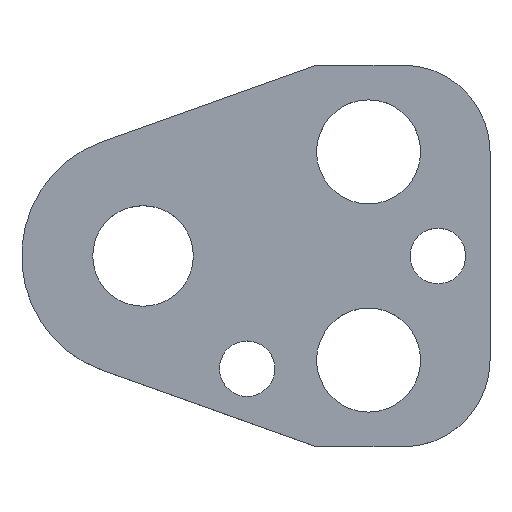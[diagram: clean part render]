
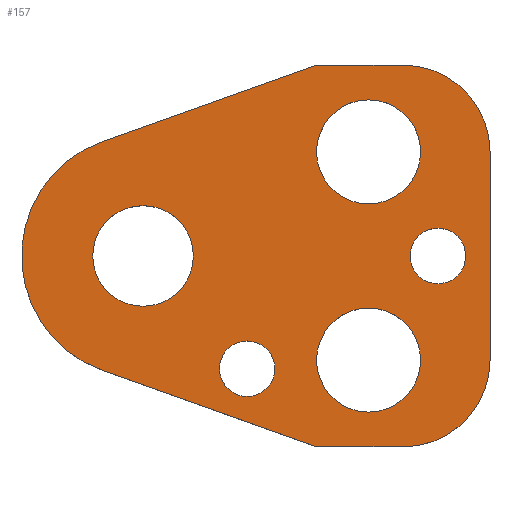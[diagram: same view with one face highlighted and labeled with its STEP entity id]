
A CAD part, top view. The second image highlights one B-rep face of the part: STEP entity #157.
In plain terms, the highlighted planar face has unit normal (0, 0, 1).
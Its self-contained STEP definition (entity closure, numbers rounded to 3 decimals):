
#103=FACE_BOUND('',#207,.T.);
#104=FACE_BOUND('',#208,.T.);
#105=FACE_BOUND('',#209,.T.);
#106=FACE_BOUND('',#210,.T.);
#107=FACE_BOUND('',#211,.T.);
#108=FACE_BOUND('',#212,.T.);
#122=CIRCLE('',#480,10.);
#124=CIRCLE('',#484,10.);
#127=CIRCLE('',#490,14.);
#138=CIRCLE('',#503,3.2);
#139=CIRCLE('',#504,3.2);
#140=CIRCLE('',#505,6.);
#141=CIRCLE('',#506,6.);
#142=CIRCLE('',#507,6.);
#143=CIRCLE('',#508,6.);
#144=CIRCLE('',#509,3.2);
#145=CIRCLE('',#510,3.2);
#146=CIRCLE('',#511,5.8);
#147=CIRCLE('',#512,5.8);
#157=ADVANCED_FACE('',(#103,#104,#105,#106,#107,#108),#174,.T.);
#174=PLANE('',#513);
#207=EDGE_LOOP('',(#273,#274,#275,#276,#277,#278,#279,#280));
#208=EDGE_LOOP('',(#281,#282));
#209=EDGE_LOOP('',(#283,#284));
#210=EDGE_LOOP('',(#285,#286));
#211=EDGE_LOOP('',(#287,#288));
#212=EDGE_LOOP('',(#289,#290));
#273=ORIENTED_EDGE('',*,*,#368,.T.);
#274=ORIENTED_EDGE('',*,*,#372,.T.);
#275=ORIENTED_EDGE('',*,*,#375,.T.);
#276=ORIENTED_EDGE('',*,*,#378,.T.);
#277=ORIENTED_EDGE('',*,*,#381,.T.);
#278=ORIENTED_EDGE('',*,*,#384,.T.);
#279=ORIENTED_EDGE('',*,*,#387,.T.);
#280=ORIENTED_EDGE('',*,*,#390,.T.);
#281=ORIENTED_EDGE('',*,*,#401,.T.);
#282=ORIENTED_EDGE('',*,*,#402,.T.);
#283=ORIENTED_EDGE('',*,*,#403,.T.);
#284=ORIENTED_EDGE('',*,*,#404,.T.);
#285=ORIENTED_EDGE('',*,*,#405,.T.);
#286=ORIENTED_EDGE('',*,*,#406,.T.);
#287=ORIENTED_EDGE('',*,*,#407,.T.);
#288=ORIENTED_EDGE('',*,*,#408,.T.);
#289=ORIENTED_EDGE('',*,*,#409,.T.);
#290=ORIENTED_EDGE('',*,*,#410,.T.);
#332=VERTEX_POINT('',#649);
#333=VERTEX_POINT('',#651);
#336=VERTEX_POINT('',#658);
#338=VERTEX_POINT('',#664);
#340=VERTEX_POINT('',#670);
#342=VERTEX_POINT('',#676);
#344=VERTEX_POINT('',#682);
#346=VERTEX_POINT('',#688);
#357=VERTEX_POINT('',#717);
#358=VERTEX_POINT('',#718);
#359=VERTEX_POINT('',#721);
#360=VERTEX_POINT('',#722);
#361=VERTEX_POINT('',#725);
#362=VERTEX_POINT('',#726);
#363=VERTEX_POINT('',#729);
#364=VERTEX_POINT('',#730);
#365=VERTEX_POINT('',#733);
#366=VERTEX_POINT('',#734);
#368=EDGE_CURVE('',#333,#332,#422,.T.);
#372=EDGE_CURVE('',#332,#336,#426,.T.);
#375=EDGE_CURVE('',#336,#338,#122,.T.);
#378=EDGE_CURVE('',#338,#340,#430,.T.);
#381=EDGE_CURVE('',#340,#342,#124,.T.);
#384=EDGE_CURVE('',#342,#344,#434,.T.);
#387=EDGE_CURVE('',#344,#346,#437,.T.);
#390=EDGE_CURVE('',#346,#333,#127,.T.);
#401=EDGE_CURVE('',#357,#358,#138,.T.);
#402=EDGE_CURVE('',#358,#357,#139,.T.);
#403=EDGE_CURVE('',#359,#360,#140,.T.);
#404=EDGE_CURVE('',#360,#359,#141,.T.);
#405=EDGE_CURVE('',#361,#362,#142,.T.);
#406=EDGE_CURVE('',#362,#361,#143,.T.);
#407=EDGE_CURVE('',#363,#364,#144,.T.);
#408=EDGE_CURVE('',#364,#363,#145,.T.);
#409=EDGE_CURVE('',#365,#366,#146,.T.);
#410=EDGE_CURVE('',#366,#365,#147,.T.);
#422=LINE('',#650,#450);
#426=LINE('',#659,#454);
#430=LINE('',#671,#458);
#434=LINE('',#683,#462);
#437=LINE('',#689,#465);
#450=VECTOR('',#527,1.);
#454=VECTOR('',#533,1.);
#458=VECTOR('',#545,1.);
#462=VECTOR('',#557,1.);
#465=VECTOR('',#562,1.);
#480=AXIS2_PLACEMENT_3D('',#665,#538,#539);
#484=AXIS2_PLACEMENT_3D('',#677,#550,#551);
#490=AXIS2_PLACEMENT_3D('',#693,#568,#569);
#503=AXIS2_PLACEMENT_3D('',#716,#594,#595);
#504=AXIS2_PLACEMENT_3D('',#719,#596,#597);
#505=AXIS2_PLACEMENT_3D('',#720,#598,#599);
#506=AXIS2_PLACEMENT_3D('',#723,#600,#601);
#507=AXIS2_PLACEMENT_3D('',#724,#602,#603);
#508=AXIS2_PLACEMENT_3D('',#727,#604,#605);
#509=AXIS2_PLACEMENT_3D('',#728,#606,#607);
#510=AXIS2_PLACEMENT_3D('',#731,#608,#609);
#511=AXIS2_PLACEMENT_3D('',#732,#610,#611);
#512=AXIS2_PLACEMENT_3D('',#735,#612,#613);
#513=AXIS2_PLACEMENT_3D('',#736,#614,#615);
#527=DIRECTION('',(0.942,-0.336,0.));
#533=DIRECTION('',(1.,0.,0.));
#538=DIRECTION('',(0.,0.,1.));
#539=DIRECTION('',(-0.707,0.707,0.));
#545=DIRECTION('',(0.,1.,0.));
#550=DIRECTION('',(0.,0.,1.));
#551=DIRECTION('',(-0.707,-0.707,0.));
#557=DIRECTION('',(-1.,0.,0.));
#562=DIRECTION('',(-0.942,-0.336,0.));
#568=DIRECTION('',(0.,0.,1.));
#569=DIRECTION('',(1.,0.,0.));
#594=DIRECTION('',(0.,0.,-1.));
#595=DIRECTION('',(-1.,0.,0.));
#596=DIRECTION('',(0.,0.,-1.));
#597=DIRECTION('',(1.,0.,0.));
#598=DIRECTION('',(0.,0.,-1.));
#599=DIRECTION('',(-1.,0.,0.));
#600=DIRECTION('',(0.,0.,-1.));
#601=DIRECTION('',(1.,0.,0.));
#602=DIRECTION('',(0.,0.,-1.));
#603=DIRECTION('',(-1.,0.,0.));
#604=DIRECTION('',(0.,0.,-1.));
#605=DIRECTION('',(1.,0.,0.));
#606=DIRECTION('',(0.,0.,-1.));
#607=DIRECTION('',(-1.,0.,0.));
#608=DIRECTION('',(0.,0.,-1.));
#609=DIRECTION('',(1.,0.,0.));
#610=DIRECTION('',(0.,0.,-1.));
#611=DIRECTION('',(-1.,0.,0.));
#612=DIRECTION('',(0.,0.,-1.));
#613=DIRECTION('',(1.,0.,0.));
#614=DIRECTION('',(0.,0.,1.));
#615=DIRECTION('',(0.942,-0.336,0.));
#649=CARTESIAN_POINT('',(20.,-22.,5.));
#650=CARTESIAN_POINT('',(20.,-22.,5.));
#651=CARTESIAN_POINT('',(-4.704,-13.186,5.));
#658=CARTESIAN_POINT('',(30.,-22.,5.));
#659=CARTESIAN_POINT('',(20.,-22.,5.));
#664=CARTESIAN_POINT('',(40.,-12.,5.));
#665=CARTESIAN_POINT('',(30.,-12.,5.));
#670=CARTESIAN_POINT('',(40.,12.,5.));
#671=CARTESIAN_POINT('',(40.,12.,5.));
#676=CARTESIAN_POINT('',(30.,22.,5.));
#677=CARTESIAN_POINT('',(30.,12.,5.));
#682=CARTESIAN_POINT('',(20.,22.,5.));
#683=CARTESIAN_POINT('',(20.,22.,5.));
#688=CARTESIAN_POINT('',(-4.704,13.186,5.));
#689=CARTESIAN_POINT('',(20.,22.,5.));
#693=CARTESIAN_POINT('',(0.,0.,5.));
#716=CARTESIAN_POINT('',(34.,0.,5.));
#717=CARTESIAN_POINT('',(34.,3.2,5.));
#718=CARTESIAN_POINT('',(34.,-3.2,5.));
#719=CARTESIAN_POINT('',(34.,0.,5.));
#720=CARTESIAN_POINT('',(26.,12.,5.));
#721=CARTESIAN_POINT('',(26.,18.,5.));
#722=CARTESIAN_POINT('',(26.,6.,5.));
#723=CARTESIAN_POINT('',(26.,12.,5.));
#724=CARTESIAN_POINT('',(26.,-12.,5.));
#725=CARTESIAN_POINT('',(26.,-6.,5.));
#726=CARTESIAN_POINT('',(26.,-18.,5.));
#727=CARTESIAN_POINT('',(26.,-12.,5.));
#728=CARTESIAN_POINT('',(12.,-13.,5.));
#729=CARTESIAN_POINT('',(12.,-9.8,5.));
#730=CARTESIAN_POINT('',(12.,-16.2,5.));
#731=CARTESIAN_POINT('',(12.,-13.,5.));
#732=CARTESIAN_POINT('',(0.,0.,5.));
#733=CARTESIAN_POINT('',(0.,5.8,5.));
#734=CARTESIAN_POINT('',(0.,-5.8,5.));
#735=CARTESIAN_POINT('',(0.,0.,5.));
#736=CARTESIAN_POINT('',(-4.704,-13.186,5.));
